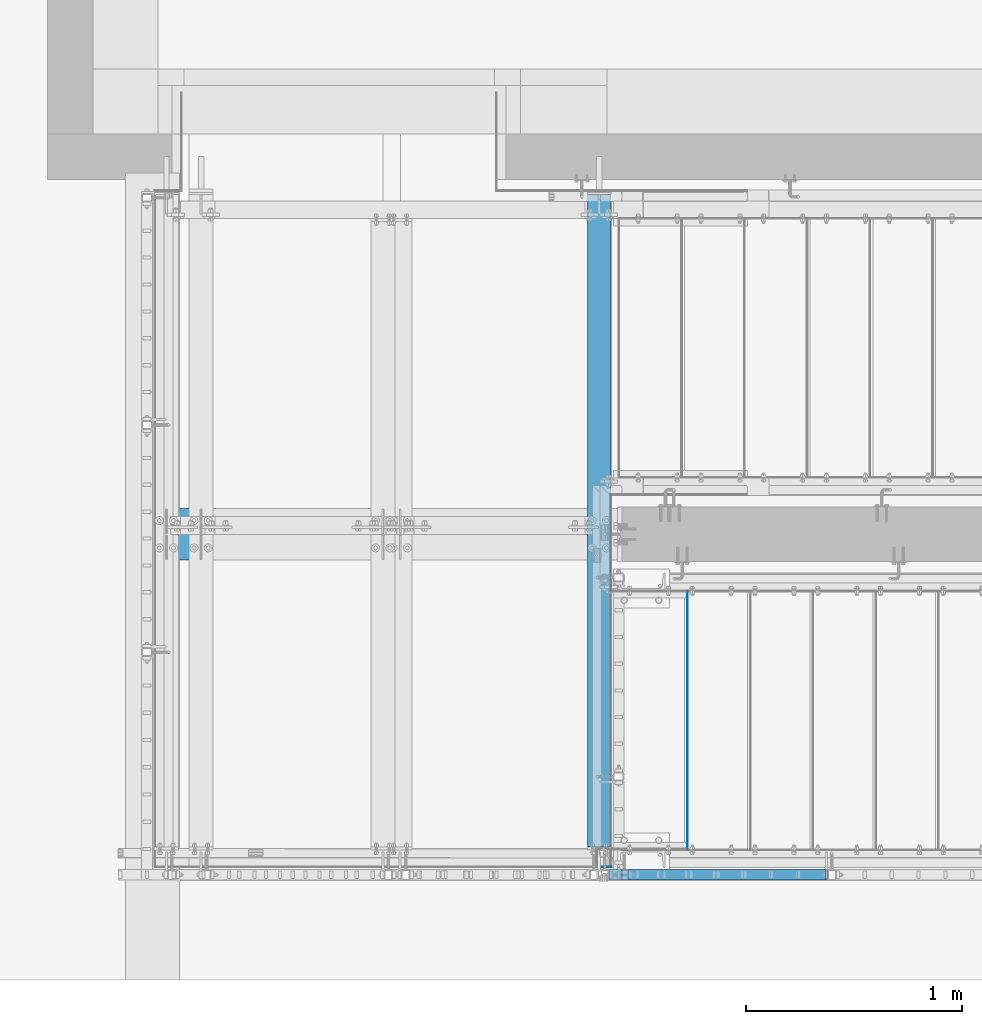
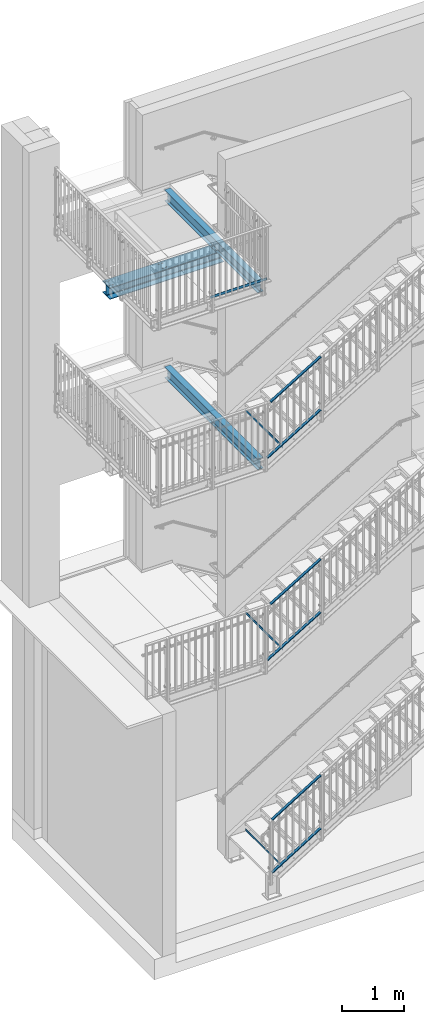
# One storey, part 28 of 410: 7 beams, 6 members, 26 openings.
"""IFC2X3 building model written with IfcOpenShell, lengths in millimetres."""

from ifc_helpers import new_model, entity, si_unit, converted_unit, point, frame, frame_2d, origin, origin_with_axes, origin_2d, origin_2d_with_axis, place, context, project, spatial, circle_curve, line_curve, trimmed, segment, composite_curve, rectangle, circle, i_section, outline, extrude, material, element, save


model = new_model("IFC2X3")

# Units and contexts
model_context = context("Model", 3, precision=1e-09, world=origin_with_axes())
ifc_project = project(units=[si_unit("LENGTHUNIT", "METRE", prefix="MILLI"), si_unit("AREAUNIT", "SQUARE_METRE"), si_unit("VOLUMEUNIT", "CUBIC_METRE"), converted_unit("PLANEANGLEUNIT", "DEGREE", entity("IfcPlaneAngleMeasure", 0.01745329), si_unit("PLANEANGLEUNIT", "RADIAN"), dimensions=[0, 0, 0, 0, 0, 0, 0])], contexts=[model_context])

# Site, building, storey
site_placement = place(None, origin_with_axes())
site = spatial("IfcSite", under=ifc_project, at=site_placement, Name="mKR Teilneubau & Sanierung BA1 - Ostfildern", CompositionType="ELEMENT")
building_placement = place(site_placement, origin_with_axes())
building = spatial("IfcBuilding", under=site, at=building_placement, Name="Struktur 1", CompositionType="ELEMENT")
storey_placement = place(building_placement, origin_with_axes())
storey = spatial("IfcBuildingStorey", under=building, at=storey_placement, Name="Default Storey", CompositionType="ELEMENT", Elevation=0.0)

# Beam
ifc_material = material(Name="S235JR")
beam_1_placement = place(None, frame((-1401.5, 15519.999999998, -4271.2), z_axis=(0.0, -1.0, 0.0), x_axis=(1.0, 0.0, 0.0)))
element("IfcBeam", 1, at=beam_1_placement, inside=storey, material=ifc_material, Name="-", ObjectType="-", context=model_context, shape_type="SweptSolid", body=[
    extrude(rectangle(XDim=3.0, YDim=40.0, at=origin_2d()), origin(), (0.0, 0.0, -1.0), 1200.0),
])

# Beam, openings
beam_2_placement = place(None, frame((-1809.9985317, 18549.99935555, 7330.0), z_axis=(0.0, 1.0, 0.0), x_axis=(1.0, 0.0, 0.0)))
beam_2 = element("IfcBeam", 2, at=beam_2_placement, inside=storey, material=ifc_material, Name="-", ObjectType="-", context=model_context, shape_type="SweptSolid", body=[
    extrude(i_section(OverallWidth=110.0, OverallDepth=220.0, WebThickness=5.9, FlangeThickness=9.2, FilletRadius=12.0, at=origin_2d()), origin(), (0.0, 0.0, -1.0), 3014.999355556),
])
opening_1_placement = place(beam_2_placement, frame((-33.0, 110.5, -1632.99935555), z_axis=(0.0, -1.0, 0.0), x_axis=(1.0, 0.0, 0.0)))
element("IfcOpeningElement", 3, at=opening_1_placement, cuts=beam_2, ObjectType="Opening", context=model_context, shape_type="SweptSolid", body=[
    extrude(outline(composite_curve([segment(trimmed(line_curve((7.001, -8.0), (0.0, 1.0), 16.0), [point((7.001, -8.0))], [point((7.001, 8.0))], True, "CARTESIAN"), True, "CONTINUOUS"), segment(trimmed(circle_curve(frame_2d((0.0, 8.0), x_axis=(1.0, 0.0)), 7.001), [point((7.001, 8.0))], [point((-7.001, 8.0))], True, "CARTESIAN"), True, "CONTINUOUS"), segment(trimmed(line_curve((-7.001, 8.0), (0.0, -1.0), 16.0), [point((-7.001, 8.0))], [point((-7.001, -8.0))], True, "CARTESIAN"), True, "CONTINUOUS"), segment(trimmed(circle_curve(frame_2d((0.0, -8.0), x_axis=(1.0, 0.0)), 7.001), [point((-7.001, -8.0))], [point((7.001, -8.0))], True, "CARTESIAN"), True, "CONTINUOUS")], self_intersect=False)), origin(), (0.0, 0.0, 1.0), 10.2),
])
opening_2_placement = place(beam_2_placement, frame((-33.0, 110.5, -1506.99935555), z_axis=(0.0, -1.0, 0.0), x_axis=(1.0, 0.0, 0.0)))
element("IfcOpeningElement", 4, at=opening_2_placement, cuts=beam_2, ObjectType="Opening", context=model_context, shape_type="SweptSolid", body=[
    extrude(outline(composite_curve([segment(trimmed(line_curve((7.001, -8.0), (0.0, 1.0), 16.0), [point((7.001, -8.0))], [point((7.001, 8.0))], True, "CARTESIAN"), True, "CONTINUOUS"), segment(trimmed(circle_curve(frame_2d((0.0, 8.0), x_axis=(1.0, 0.0)), 7.001), [point((7.001, 8.0))], [point((-7.001, 8.0))], True, "CARTESIAN"), True, "CONTINUOUS"), segment(trimmed(line_curve((-7.001, 8.0), (0.0, -1.0), 16.0), [point((-7.001, 8.0))], [point((-7.001, -8.0))], True, "CARTESIAN"), True, "CONTINUOUS"), segment(trimmed(circle_curve(frame_2d((0.0, -8.0), x_axis=(1.0, 0.0)), 7.001), [point((-7.001, -8.0))], [point((7.001, -8.0))], True, "CARTESIAN"), True, "CONTINUOUS")], self_intersect=False)), origin(), (0.0, 0.0, 1.0), 10.2),
])
opening_3_placement = place(beam_2_placement, frame((33.0, 110.5, -1506.99935555), z_axis=(0.0, -1.0, 0.0), x_axis=(1.0, 0.0, 0.0)))
element("IfcOpeningElement", 5, at=opening_3_placement, cuts=beam_2, ObjectType="Opening", context=model_context, shape_type="SweptSolid", body=[
    extrude(outline(composite_curve([segment(trimmed(line_curve((7.001, -8.0), (0.0, 1.0), 16.0), [point((7.001, -8.0))], [point((7.001, 8.0))], True, "CARTESIAN"), True, "CONTINUOUS"), segment(trimmed(circle_curve(frame_2d((0.0, 8.0), x_axis=(1.0, 0.0)), 7.001), [point((7.001, 8.0))], [point((-7.001, 8.0))], True, "CARTESIAN"), True, "CONTINUOUS"), segment(trimmed(line_curve((-7.001, 8.0), (0.0, -1.0), 16.0), [point((-7.001, 8.0))], [point((-7.001, -8.0))], True, "CARTESIAN"), True, "CONTINUOUS"), segment(trimmed(circle_curve(frame_2d((0.0, -8.0), x_axis=(1.0, 0.0)), 7.001), [point((-7.001, -8.0))], [point((7.001, -8.0))], True, "CARTESIAN"), True, "CONTINUOUS")], self_intersect=False)), origin(), (0.0, 0.0, 1.0), 10.2),
])
opening_4_placement = place(beam_2_placement, frame((33.0, 110.5, -1632.99935555), z_axis=(0.0, -1.0, 0.0), x_axis=(1.0, 0.0, 0.0)))
element("IfcOpeningElement", 6, at=opening_4_placement, cuts=beam_2, ObjectType="Opening", context=model_context, shape_type="SweptSolid", body=[
    extrude(outline(composite_curve([segment(trimmed(line_curve((7.001, -8.0), (0.0, 1.0), 16.0), [point((7.001, -8.0))], [point((7.001, 8.0))], True, "CARTESIAN"), True, "CONTINUOUS"), segment(trimmed(circle_curve(frame_2d((0.0, 8.0), x_axis=(1.0, 0.0)), 7.001), [point((7.001, 8.0))], [point((-7.001, 8.0))], True, "CARTESIAN"), True, "CONTINUOUS"), segment(trimmed(line_curve((-7.001, 8.0), (0.0, -1.0), 16.0), [point((-7.001, 8.0))], [point((-7.001, -8.0))], True, "CARTESIAN"), True, "CONTINUOUS"), segment(trimmed(circle_curve(frame_2d((0.0, -8.0), x_axis=(1.0, 0.0)), 7.001), [point((-7.001, -8.0))], [point((7.001, -8.0))], True, "CARTESIAN"), True, "CONTINUOUS")], self_intersect=False)), origin(), (0.0, 0.0, 1.0), 10.2),
])
opening_5_placement = place(beam_2_placement, frame((-3.45, 79.0, -15.0), z_axis=(1.0, 0.0, 0.0), x_axis=(0.0, 0.0, -1.0)))
element("IfcOpeningElement", 7, at=opening_5_placement, cuts=beam_2, ObjectType="Opening", context=model_context, shape_type="SweptSolid", body=[
    extrude(circle(Radius=7.001, at=origin_2d_with_axis()), origin(), (0.0, 0.0, 1.0), 6.9),
])
opening_6_placement = place(beam_2_placement, frame((-3.45, -79.0, -15.0), z_axis=(1.0, 0.0, 0.0), x_axis=(0.0, 0.0, -1.0)))
element("IfcOpeningElement", 8, at=opening_6_placement, cuts=beam_2, ObjectType="Opening", context=model_context, shape_type="SweptSolid", body=[
    extrude(circle(Radius=7.001, at=origin_2d_with_axis()), origin(), (0.0, 0.0, 1.0), 6.9),
])

# Beams
for number, where, z_axis, x_axis in (
    (9, (-1402.0, 15522.000999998, 25.0), (0.0, -1.0, 0.0), (1.0, 0.0, 0.0)),
    (10, (-1402.0, 15522.000999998, 4025.0), (0.0, -1.0, 0.0), (1.0, 0.0, 0.0)),
):
    element("IfcBeam", number, at=place(None, frame(where, z_axis=z_axis, x_axis=x_axis)), inside=storey, material=ifc_material, Name="-", ObjectType="-", context=model_context, shape_type="SweptSolid", body=[
        extrude(rectangle(XDim=4.0, YDim=50.0, at=origin_2d()), origin(), (0.0, 0.0, -1.0), 1196.0),
    ])

# Beam, openings
beam_3_placement = place(None, frame((-1809.9985317, 18549.99935555, 3830.0), z_axis=(0.0, 1.0, 0.0), x_axis=(1.0, 0.0, 0.0)))
beam_3 = element("IfcBeam", 11, at=beam_3_placement, inside=storey, material=ifc_material, Name="-", ObjectType="-", context=model_context, shape_type="SweptSolid", body=[
    extrude(i_section(OverallWidth=110.0, OverallDepth=220.0, WebThickness=5.9, FlangeThickness=9.2, FilletRadius=12.0, at=origin_2d()), origin(), (0.0, 0.0, -1.0), 3014.999355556),
])
opening_7_placement = place(beam_3_placement, frame((33.0, 110.5, -1632.99935555), z_axis=(0.0, -1.0, 0.0), x_axis=(1.0, 0.0, 0.0)))
element("IfcOpeningElement", 12, at=opening_7_placement, cuts=beam_3, ObjectType="Opening", context=model_context, shape_type="SweptSolid", body=[
    extrude(outline(composite_curve([segment(trimmed(line_curve((7.001, -8.0), (0.0, 1.0), 16.0), [point((7.001, -8.0))], [point((7.001, 8.0))], True, "CARTESIAN"), True, "CONTINUOUS"), segment(trimmed(circle_curve(frame_2d((0.0, 8.0), x_axis=(1.0, 0.0)), 7.001), [point((7.001, 8.0))], [point((-7.001, 8.0))], True, "CARTESIAN"), True, "CONTINUOUS"), segment(trimmed(line_curve((-7.001, 8.0), (0.0, -1.0), 16.0), [point((-7.001, 8.0))], [point((-7.001, -8.0))], True, "CARTESIAN"), True, "CONTINUOUS"), segment(trimmed(circle_curve(frame_2d((0.0, -8.0), x_axis=(1.0, 0.0)), 7.001), [point((-7.001, -8.0))], [point((7.001, -8.0))], True, "CARTESIAN"), True, "CONTINUOUS")], self_intersect=False)), origin(), (0.0, 0.0, 1.0), 10.2),
])
opening_8_placement = place(beam_3_placement, frame((-33.0, 110.5, -1506.99935555), z_axis=(0.0, -1.0, 0.0), x_axis=(1.0, 0.0, 0.0)))
element("IfcOpeningElement", 13, at=opening_8_placement, cuts=beam_3, ObjectType="Opening", context=model_context, shape_type="SweptSolid", body=[
    extrude(outline(composite_curve([segment(trimmed(line_curve((7.001, -8.0), (0.0, 1.0), 16.0), [point((7.001, -8.0))], [point((7.001, 8.0))], True, "CARTESIAN"), True, "CONTINUOUS"), segment(trimmed(circle_curve(frame_2d((0.0, 8.0), x_axis=(1.0, 0.0)), 7.001), [point((7.001, 8.0))], [point((-7.001, 8.0))], True, "CARTESIAN"), True, "CONTINUOUS"), segment(trimmed(line_curve((-7.001, 8.0), (0.0, -1.0), 16.0), [point((-7.001, 8.0))], [point((-7.001, -8.0))], True, "CARTESIAN"), True, "CONTINUOUS"), segment(trimmed(circle_curve(frame_2d((0.0, -8.0), x_axis=(1.0, 0.0)), 7.001), [point((-7.001, -8.0))], [point((7.001, -8.0))], True, "CARTESIAN"), True, "CONTINUOUS")], self_intersect=False)), origin(), (0.0, 0.0, 1.0), 10.2),
])
opening_9_placement = place(beam_3_placement, frame((33.0, 110.5, -1506.99935555), z_axis=(0.0, -1.0, 0.0), x_axis=(1.0, 0.0, 0.0)))
element("IfcOpeningElement", 14, at=opening_9_placement, cuts=beam_3, ObjectType="Opening", context=model_context, shape_type="SweptSolid", body=[
    extrude(outline(composite_curve([segment(trimmed(line_curve((7.001, -8.0), (0.0, 1.0), 16.0), [point((7.001, -8.0))], [point((7.001, 8.0))], True, "CARTESIAN"), True, "CONTINUOUS"), segment(trimmed(circle_curve(frame_2d((0.0, 8.0), x_axis=(1.0, 0.0)), 7.001), [point((7.001, 8.0))], [point((-7.001, 8.0))], True, "CARTESIAN"), True, "CONTINUOUS"), segment(trimmed(line_curve((-7.001, 8.0), (0.0, -1.0), 16.0), [point((-7.001, 8.0))], [point((-7.001, -8.0))], True, "CARTESIAN"), True, "CONTINUOUS"), segment(trimmed(circle_curve(frame_2d((0.0, -8.0), x_axis=(1.0, 0.0)), 7.001), [point((-7.001, -8.0))], [point((7.001, -8.0))], True, "CARTESIAN"), True, "CONTINUOUS")], self_intersect=False)), origin(), (0.0, 0.0, 1.0), 10.2),
])
opening_10_placement = place(beam_3_placement, frame((-33.0, 110.5, -1632.99935555), z_axis=(0.0, -1.0, 0.0), x_axis=(1.0, 0.0, 0.0)))
element("IfcOpeningElement", 15, at=opening_10_placement, cuts=beam_3, ObjectType="Opening", context=model_context, shape_type="SweptSolid", body=[
    extrude(outline(composite_curve([segment(trimmed(line_curve((7.001, -8.0), (0.0, 1.0), 16.0), [point((7.001, -8.0))], [point((7.001, 8.0))], True, "CARTESIAN"), True, "CONTINUOUS"), segment(trimmed(circle_curve(frame_2d((0.0, 8.0), x_axis=(1.0, 0.0)), 7.001), [point((7.001, 8.0))], [point((-7.001, 8.0))], True, "CARTESIAN"), True, "CONTINUOUS"), segment(trimmed(line_curve((-7.001, 8.0), (0.0, -1.0), 16.0), [point((-7.001, 8.0))], [point((-7.001, -8.0))], True, "CARTESIAN"), True, "CONTINUOUS"), segment(trimmed(circle_curve(frame_2d((0.0, -8.0), x_axis=(1.0, 0.0)), 7.001), [point((-7.001, -8.0))], [point((7.001, -8.0))], True, "CARTESIAN"), True, "CONTINUOUS")], self_intersect=False)), origin(), (0.0, 0.0, 1.0), 10.2),
])
opening_11_placement = place(beam_3_placement, frame((-3.45, 79.0, -15.0), z_axis=(1.0, 0.0, 0.0), x_axis=(0.0, 0.0, -1.0)))
element("IfcOpeningElement", 16, at=opening_11_placement, cuts=beam_3, ObjectType="Opening", context=model_context, shape_type="SweptSolid", body=[
    extrude(circle(Radius=7.001, at=origin_2d_with_axis()), origin(), (0.0, 0.0, 1.0), 6.9),
])
opening_12_placement = place(beam_3_placement, frame((-3.45, -79.0, -15.0), z_axis=(1.0, 0.0, 0.0), x_axis=(0.0, 0.0, -1.0)))
element("IfcOpeningElement", 17, at=opening_12_placement, cuts=beam_3, ObjectType="Opening", context=model_context, shape_type="SweptSolid", body=[
    extrude(circle(Radius=7.001, at=origin_2d_with_axis()), origin(), (0.0, 0.0, 1.0), 6.9),
])

beam_4_placement = place(None, frame((-1725.0, 16980.0, 7105.0), z_axis=(1.0, 0.0, 0.0), x_axis=(0.0, 1.0, 0.0)))
beam_4 = element("IfcBeam", 18, at=beam_4_placement, inside=storey, material=ifc_material, Name="-", ObjectType="-", context=model_context, shape_type="SweptSolid", body=[
    extrude(i_section(OverallWidth=240.0, OverallDepth=230.0, WebThickness=7.5, FlangeThickness=12.0, FilletRadius=21.0, at=origin_2d()), origin(), (0.0, 0.0, -1.0), 2139.9985317),
])
opening_13_placement = place(beam_4_placement, frame((63.0, 102.5, -117.9985317), z_axis=(0.0, 1.0, 0.0), x_axis=(0.0, 0.0, 1.0)))
element("IfcOpeningElement", 19, at=opening_13_placement, cuts=beam_4, ObjectType="Opening", context=model_context, shape_type="SweptSolid", body=[
    extrude(outline(composite_curve([segment(trimmed(line_curve((-8.0, -7.001), (1.0, 0.0), 16.0), [point((-8.0, -7.001))], [point((8.0, -7.001))], True, "CARTESIAN"), True, "CONTINUOUS"), segment(trimmed(circle_curve(frame_2d((8.0, 0.0), x_axis=(1.0, 0.0)), 7.001), [point((8.0, -7.001))], [point((8.0, 7.001))], True, "CARTESIAN"), True, "CONTINUOUS"), segment(trimmed(line_curve((8.0, 7.001), (-1.0, 0.0), 16.0), [point((8.0, 7.001))], [point((-8.0, 7.001))], True, "CARTESIAN"), True, "CONTINUOUS"), segment(trimmed(circle_curve(frame_2d((-8.0, 0.0), x_axis=(1.0, 0.0)), 7.001), [point((-8.0, 7.001))], [point((-8.0, -7.001))], True, "CARTESIAN"), True, "CONTINUOUS")], self_intersect=False)), origin(), (0.0, 0.0, 1.0), 13.0),
])
opening_14_placement = place(beam_4_placement, frame((63.0, 102.5, -1051.9985317), z_axis=(0.0, 1.0, 0.0), x_axis=(0.0, 0.0, 1.0)))
element("IfcOpeningElement", 20, at=opening_14_placement, cuts=beam_4, ObjectType="Opening", context=model_context, shape_type="SweptSolid", body=[
    extrude(outline(composite_curve([segment(trimmed(line_curve((-8.0, -7.001), (1.0, 0.0), 16.0), [point((-8.0, -7.001))], [point((8.0, -7.001))], True, "CARTESIAN"), True, "CONTINUOUS"), segment(trimmed(circle_curve(frame_2d((8.0, 0.0), x_axis=(1.0, 0.0)), 7.001), [point((8.0, -7.001))], [point((8.0, 7.001))], True, "CARTESIAN"), True, "CONTINUOUS"), segment(trimmed(line_curve((8.0, 7.001), (-1.0, 0.0), 16.0), [point((8.0, 7.001))], [point((-8.0, 7.001))], True, "CARTESIAN"), True, "CONTINUOUS"), segment(trimmed(circle_curve(frame_2d((-8.0, 0.0), x_axis=(1.0, 0.0)), 7.001), [point((-8.0, 7.001))], [point((-8.0, -7.001))], True, "CARTESIAN"), True, "CONTINUOUS")], self_intersect=False)), origin(), (0.0, 0.0, 1.0), 13.0),
])
opening_15_placement = place(beam_4_placement, frame((-63.0, 102.5, -1117.9985317), z_axis=(0.0, 1.0, 0.0), x_axis=(0.0, 0.0, 1.0)))
element("IfcOpeningElement", 21, at=opening_15_placement, cuts=beam_4, ObjectType="Opening", context=model_context, shape_type="SweptSolid", body=[
    extrude(outline(composite_curve([segment(trimmed(line_curve((-8.0, -7.001), (1.0, 0.0), 16.0), [point((-8.0, -7.001))], [point((8.0, -7.001))], True, "CARTESIAN"), True, "CONTINUOUS"), segment(trimmed(circle_curve(frame_2d((8.0, 0.0), x_axis=(1.0, 0.0)), 7.001), [point((8.0, -7.001))], [point((8.0, 7.001))], True, "CARTESIAN"), True, "CONTINUOUS"), segment(trimmed(line_curve((8.0, 7.001), (-1.0, 0.0), 16.0), [point((8.0, 7.001))], [point((-8.0, 7.001))], True, "CARTESIAN"), True, "CONTINUOUS"), segment(trimmed(circle_curve(frame_2d((-8.0, 0.0), x_axis=(1.0, 0.0)), 7.001), [point((-8.0, 7.001))], [point((-8.0, -7.001))], True, "CARTESIAN"), True, "CONTINUOUS")], self_intersect=False)), origin(), (0.0, 0.0, 1.0), 13.0),
])
opening_16_placement = place(beam_4_placement, frame((-63.0, 102.5, -1051.9985317), z_axis=(0.0, 1.0, 0.0), x_axis=(0.0, 0.0, 1.0)))
element("IfcOpeningElement", 22, at=opening_16_placement, cuts=beam_4, ObjectType="Opening", context=model_context, shape_type="SweptSolid", body=[
    extrude(outline(composite_curve([segment(trimmed(line_curve((-8.0, -7.001), (1.0, 0.0), 16.0), [point((-8.0, -7.001))], [point((8.0, -7.001))], True, "CARTESIAN"), True, "CONTINUOUS"), segment(trimmed(circle_curve(frame_2d((8.0, 0.0), x_axis=(1.0, 0.0)), 7.001), [point((8.0, -7.001))], [point((8.0, 7.001))], True, "CARTESIAN"), True, "CONTINUOUS"), segment(trimmed(line_curve((8.0, 7.001), (-1.0, 0.0), 16.0), [point((8.0, 7.001))], [point((-8.0, 7.001))], True, "CARTESIAN"), True, "CONTINUOUS"), segment(trimmed(circle_curve(frame_2d((-8.0, 0.0), x_axis=(1.0, 0.0)), 7.001), [point((-8.0, 7.001))], [point((-8.0, -7.001))], True, "CARTESIAN"), True, "CONTINUOUS")], self_intersect=False)), origin(), (0.0, 0.0, 1.0), 13.0),
])
opening_17_placement = place(beam_4_placement, frame((63.0, 102.5, -51.9985317), z_axis=(0.0, 1.0, 0.0), x_axis=(0.0, 0.0, 1.0)))
element("IfcOpeningElement", 23, at=opening_17_placement, cuts=beam_4, ObjectType="Opening", context=model_context, shape_type="SweptSolid", body=[
    extrude(outline(composite_curve([segment(trimmed(line_curve((-8.0, -7.001), (1.0, 0.0), 16.0), [point((-8.0, -7.001))], [point((8.0, -7.001))], True, "CARTESIAN"), True, "CONTINUOUS"), segment(trimmed(circle_curve(frame_2d((8.0, 0.0), x_axis=(1.0, 0.0)), 7.001), [point((8.0, -7.001))], [point((8.0, 7.001))], True, "CARTESIAN"), True, "CONTINUOUS"), segment(trimmed(line_curve((8.0, 7.001), (-1.0, 0.0), 16.0), [point((8.0, 7.001))], [point((-8.0, 7.001))], True, "CARTESIAN"), True, "CONTINUOUS"), segment(trimmed(circle_curve(frame_2d((-8.0, 0.0), x_axis=(1.0, 0.0)), 7.001), [point((-8.0, 7.001))], [point((-8.0, -7.001))], True, "CARTESIAN"), True, "CONTINUOUS")], self_intersect=False)), origin(), (0.0, 0.0, 1.0), 13.0),
])
opening_18_placement = place(beam_4_placement, frame((-63.0, 102.5, -2117.9985317), z_axis=(0.0, 1.0, 0.0), x_axis=(0.0, 0.0, 1.0)))
element("IfcOpeningElement", 24, at=opening_18_placement, cuts=beam_4, ObjectType="Opening", context=model_context, shape_type="SweptSolid", body=[
    extrude(outline(composite_curve([segment(trimmed(line_curve((-8.0, -7.001), (1.0, 0.0), 16.0), [point((-8.0, -7.001))], [point((8.0, -7.001))], True, "CARTESIAN"), True, "CONTINUOUS"), segment(trimmed(circle_curve(frame_2d((8.0, 0.0), x_axis=(1.0, 0.0)), 7.001), [point((8.0, -7.001))], [point((8.0, 7.001))], True, "CARTESIAN"), True, "CONTINUOUS"), segment(trimmed(line_curve((8.0, 7.001), (-1.0, 0.0), 16.0), [point((8.0, 7.001))], [point((-8.0, 7.001))], True, "CARTESIAN"), True, "CONTINUOUS"), segment(trimmed(circle_curve(frame_2d((-8.0, 0.0), x_axis=(1.0, 0.0)), 7.001), [point((-8.0, 7.001))], [point((-8.0, -7.001))], True, "CARTESIAN"), True, "CONTINUOUS")], self_intersect=False)), origin(), (0.0, 0.0, 1.0), 13.0),
])
opening_19_placement = place(beam_4_placement, frame((63.0, 102.5, -2117.9985317), z_axis=(0.0, 1.0, 0.0), x_axis=(0.0, 0.0, 1.0)))
element("IfcOpeningElement", 25, at=opening_19_placement, cuts=beam_4, ObjectType="Opening", context=model_context, shape_type="SweptSolid", body=[
    extrude(outline(composite_curve([segment(trimmed(line_curve((-8.0, -7.001), (1.0, 0.0), 16.0), [point((-8.0, -7.001))], [point((8.0, -7.001))], True, "CARTESIAN"), True, "CONTINUOUS"), segment(trimmed(circle_curve(frame_2d((8.0, 0.0), x_axis=(1.0, 0.0)), 7.001), [point((8.0, -7.001))], [point((8.0, 7.001))], True, "CARTESIAN"), True, "CONTINUOUS"), segment(trimmed(line_curve((8.0, 7.001), (-1.0, 0.0), 16.0), [point((8.0, 7.001))], [point((-8.0, 7.001))], True, "CARTESIAN"), True, "CONTINUOUS"), segment(trimmed(circle_curve(frame_2d((-8.0, 0.0), x_axis=(1.0, 0.0)), 7.001), [point((-8.0, 7.001))], [point((-8.0, -7.001))], True, "CARTESIAN"), True, "CONTINUOUS")], self_intersect=False)), origin(), (0.0, 0.0, 1.0), 13.0),
])
opening_20_placement = place(beam_4_placement, frame((-63.0, 102.5, -117.9985317), z_axis=(0.0, 1.0, 0.0), x_axis=(0.0, 0.0, 1.0)))
element("IfcOpeningElement", 26, at=opening_20_placement, cuts=beam_4, ObjectType="Opening", context=model_context, shape_type="SweptSolid", body=[
    extrude(outline(composite_curve([segment(trimmed(line_curve((-8.0, -7.001), (1.0, 0.0), 16.0), [point((-8.0, -7.001))], [point((8.0, -7.001))], True, "CARTESIAN"), True, "CONTINUOUS"), segment(trimmed(circle_curve(frame_2d((8.0, 0.0), x_axis=(1.0, 0.0)), 7.001), [point((8.0, -7.001))], [point((8.0, 7.001))], True, "CARTESIAN"), True, "CONTINUOUS"), segment(trimmed(line_curve((8.0, 7.001), (-1.0, 0.0), 16.0), [point((8.0, 7.001))], [point((-8.0, 7.001))], True, "CARTESIAN"), True, "CONTINUOUS"), segment(trimmed(circle_curve(frame_2d((-8.0, 0.0), x_axis=(1.0, 0.0)), 7.001), [point((-8.0, 7.001))], [point((-8.0, -7.001))], True, "CARTESIAN"), True, "CONTINUOUS")], self_intersect=False)), origin(), (0.0, 0.0, 1.0), 13.0),
])
opening_21_placement = place(beam_4_placement, frame((63.0, 102.5, -1117.9985317), z_axis=(0.0, 1.0, 0.0), x_axis=(0.0, 0.0, 1.0)))
element("IfcOpeningElement", 27, at=opening_21_placement, cuts=beam_4, ObjectType="Opening", context=model_context, shape_type="SweptSolid", body=[
    extrude(outline(composite_curve([segment(trimmed(line_curve((-8.0, -7.001), (1.0, 0.0), 16.0), [point((-8.0, -7.001))], [point((8.0, -7.001))], True, "CARTESIAN"), True, "CONTINUOUS"), segment(trimmed(circle_curve(frame_2d((8.0, 0.0), x_axis=(1.0, 0.0)), 7.001), [point((8.0, -7.001))], [point((8.0, 7.001))], True, "CARTESIAN"), True, "CONTINUOUS"), segment(trimmed(line_curve((8.0, 7.001), (-1.0, 0.0), 16.0), [point((8.0, 7.001))], [point((-8.0, 7.001))], True, "CARTESIAN"), True, "CONTINUOUS"), segment(trimmed(circle_curve(frame_2d((-8.0, 0.0), x_axis=(1.0, 0.0)), 7.001), [point((-8.0, 7.001))], [point((-8.0, -7.001))], True, "CARTESIAN"), True, "CONTINUOUS")], self_intersect=False)), origin(), (0.0, 0.0, 1.0), 13.0),
])
opening_22_placement = place(beam_4_placement, frame((63.0, 102.5, -2051.9985317), z_axis=(0.0, 1.0, 0.0), x_axis=(0.0, 0.0, 1.0)))
element("IfcOpeningElement", 28, at=opening_22_placement, cuts=beam_4, ObjectType="Opening", context=model_context, shape_type="SweptSolid", body=[
    extrude(outline(composite_curve([segment(trimmed(line_curve((-8.0, -7.001), (1.0, 0.0), 16.0), [point((-8.0, -7.001))], [point((8.0, -7.001))], True, "CARTESIAN"), True, "CONTINUOUS"), segment(trimmed(circle_curve(frame_2d((8.0, 0.0), x_axis=(1.0, 0.0)), 7.001), [point((8.0, -7.001))], [point((8.0, 7.001))], True, "CARTESIAN"), True, "CONTINUOUS"), segment(trimmed(line_curve((8.0, 7.001), (-1.0, 0.0), 16.0), [point((8.0, 7.001))], [point((-8.0, 7.001))], True, "CARTESIAN"), True, "CONTINUOUS"), segment(trimmed(circle_curve(frame_2d((-8.0, 0.0), x_axis=(1.0, 0.0)), 7.001), [point((-8.0, 7.001))], [point((-8.0, -7.001))], True, "CARTESIAN"), True, "CONTINUOUS")], self_intersect=False)), origin(), (0.0, 0.0, 1.0), 13.0),
])
opening_23_placement = place(beam_4_placement, frame((-63.0, 102.5, -2051.9985317), z_axis=(0.0, 1.0, 0.0), x_axis=(0.0, 0.0, 1.0)))
element("IfcOpeningElement", 29, at=opening_23_placement, cuts=beam_4, ObjectType="Opening", context=model_context, shape_type="SweptSolid", body=[
    extrude(outline(composite_curve([segment(trimmed(line_curve((-8.0, -7.001), (1.0, 0.0), 16.0), [point((-8.0, -7.001))], [point((8.0, -7.001))], True, "CARTESIAN"), True, "CONTINUOUS"), segment(trimmed(circle_curve(frame_2d((8.0, 0.0), x_axis=(1.0, 0.0)), 7.001), [point((8.0, -7.001))], [point((8.0, 7.001))], True, "CARTESIAN"), True, "CONTINUOUS"), segment(trimmed(line_curve((8.0, 7.001), (-1.0, 0.0), 16.0), [point((8.0, 7.001))], [point((-8.0, 7.001))], True, "CARTESIAN"), True, "CONTINUOUS"), segment(trimmed(circle_curve(frame_2d((-8.0, 0.0), x_axis=(1.0, 0.0)), 7.001), [point((-8.0, 7.001))], [point((-8.0, -7.001))], True, "CARTESIAN"), True, "CONTINUOUS")], self_intersect=False)), origin(), (0.0, 0.0, 1.0), 13.0),
])
opening_24_placement = place(beam_4_placement, frame((-63.0, 102.5, -51.9985317), z_axis=(0.0, 1.0, 0.0), x_axis=(0.0, 0.0, 1.0)))
element("IfcOpeningElement", 30, at=opening_24_placement, cuts=beam_4, ObjectType="Opening", context=model_context, shape_type="SweptSolid", body=[
    extrude(outline(composite_curve([segment(trimmed(line_curve((-8.0, -7.001), (1.0, 0.0), 16.0), [point((-8.0, -7.001))], [point((8.0, -7.001))], True, "CARTESIAN"), True, "CONTINUOUS"), segment(trimmed(circle_curve(frame_2d((8.0, 0.0), x_axis=(1.0, 0.0)), 7.001), [point((8.0, -7.001))], [point((8.0, 7.001))], True, "CARTESIAN"), True, "CONTINUOUS"), segment(trimmed(line_curve((8.0, 7.001), (-1.0, 0.0), 16.0), [point((8.0, 7.001))], [point((-8.0, 7.001))], True, "CARTESIAN"), True, "CONTINUOUS"), segment(trimmed(circle_curve(frame_2d((-8.0, 0.0), x_axis=(1.0, 0.0)), 7.001), [point((-8.0, 7.001))], [point((-8.0, -7.001))], True, "CARTESIAN"), True, "CONTINUOUS")], self_intersect=False)), origin(), (0.0, 0.0, 1.0), 13.0),
])
opening_25_placement = place(beam_4_placement, frame((-4.25, 73.0, -15.0), z_axis=(1.0, 0.0, 0.0), x_axis=(0.0, 0.0, -1.0)))
element("IfcOpeningElement", 31, at=opening_25_placement, cuts=beam_4, ObjectType="Opening", context=model_context, shape_type="SweptSolid", body=[
    extrude(circle(Radius=7.001, at=origin_2d_with_axis()), origin(), (0.0, 0.0, 1.0), 8.5),
])
opening_26_placement = place(beam_4_placement, frame((-4.25, -73.0, -15.0), z_axis=(1.0, 0.0, 0.0), x_axis=(0.0, 0.0, -1.0)))
element("IfcOpeningElement", 32, at=opening_26_placement, cuts=beam_4, ObjectType="Opening", context=model_context, shape_type="SweptSolid", body=[
    extrude(circle(Radius=7.001, at=origin_2d_with_axis()), origin(), (0.0, 0.0, 1.0), 8.5),
])

# Beam
beam_5_placement = place(None, frame((-1754.9985317, 15441.999999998, 7525.0), z_axis=(1.0, 0.0, 0.0), x_axis=(0.0, 1.0, 0.0)))
element("IfcBeam", 33, at=beam_5_placement, inside=storey, material=ifc_material, Name="-", ObjectType="-", context=model_context, shape_type="SweptSolid", body=[
    extrude(rectangle(XDim=4.0, YDim=50.0, at=origin_2d()), origin(), (0.0, 0.0, -1.0), 1054.0),
])

# Members
member_1_placement = place(None, frame((-759.373518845, 15405.999999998, 5661.876907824), z_axis=(0.856187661, 0.0, 0.516664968), x_axis=(-0.516664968, 0.0, 0.856187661)))
element("IfcMember", 34, at=member_1_placement, inside=storey, material=ifc_material, Name="-", ObjectType="-", context=model_context, shape_type="SweptSolid", body=[
    extrude(rectangle(XDim=15.0, YDim=50.0, at=origin_2d()), origin(), (0.0, 0.0, -1.0), 1099.935839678),
])
member_2_placement = place(None, frame((-1760.623544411, 15405.999999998, 4010.23287722), z_axis=(-0.856187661, 0.0, -0.516664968), x_axis=(0.516664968, 0.0, -0.856187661)))
element("IfcMember", 35, at=member_2_placement, inside=storey, material=ifc_material, Name="-", ObjectType="-", context=model_context, shape_type="SweptSolid", body=[
    extrude(rectangle(XDim=15.0, YDim=50.0, at=origin_2d()), origin(), (0.0, 0.0, -1.0), 1169.428235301),
])
member_3_placement = place(None, frame((-1760.641231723, 15405.999999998, 10.358300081), z_axis=(-0.857606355, 0.0, -0.51430666), x_axis=(0.51430666, 0.0, -0.857606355)))
element("IfcMember", 36, at=member_3_placement, inside=storey, material=ifc_material, Name="-", ObjectType="-", context=model_context, shape_type="SweptSolid", body=[
    extrude(rectangle(XDim=15.0, YDim=50.0, at=origin_2d()), origin(), (0.0, 0.0, -1.0), 1167.534958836),
])
member_4_placement = place(None, frame((-759.355831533, 15405.999999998, 1658.357678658), z_axis=(0.857606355, 0.0, 0.51430666), x_axis=(-0.51430666, 0.0, 0.857606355)))
element("IfcMember", 37, at=member_4_placement, inside=storey, material=ifc_material, Name="-", ObjectType="-", context=model_context, shape_type="SweptSolid", body=[
    extrude(rectangle(XDim=15.0, YDim=50.0, at=origin_2d()), origin(), (0.0, 0.0, -1.0), 1098.157520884),
])
for number, where, z_axis, x_axis in (
    (38, (-1670.562397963, 15405.999999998, -3178.778376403), (-0.851214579, 0.0, -0.524817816), (0.524817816, 0.0, -0.851214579)),
    (39, (-759.434665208, 15405.999999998, -3664.155365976), (0.851214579, 0.0, 0.524817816), (-0.524817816, 0.0, 0.851214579)),
):
    element("IfcMember", number, at=place(None, frame(where, z_axis=z_axis, x_axis=x_axis)), inside=storey, material=ifc_material, Name="-", ObjectType="-", context=model_context, shape_type="SweptSolid", body=[
        extrude(rectangle(XDim=15.0, YDim=50.0, at=origin_2d()), origin(), (0.0, 0.0, -1.0), 1070.385488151),
    ])

save(model, "model.ifc")
